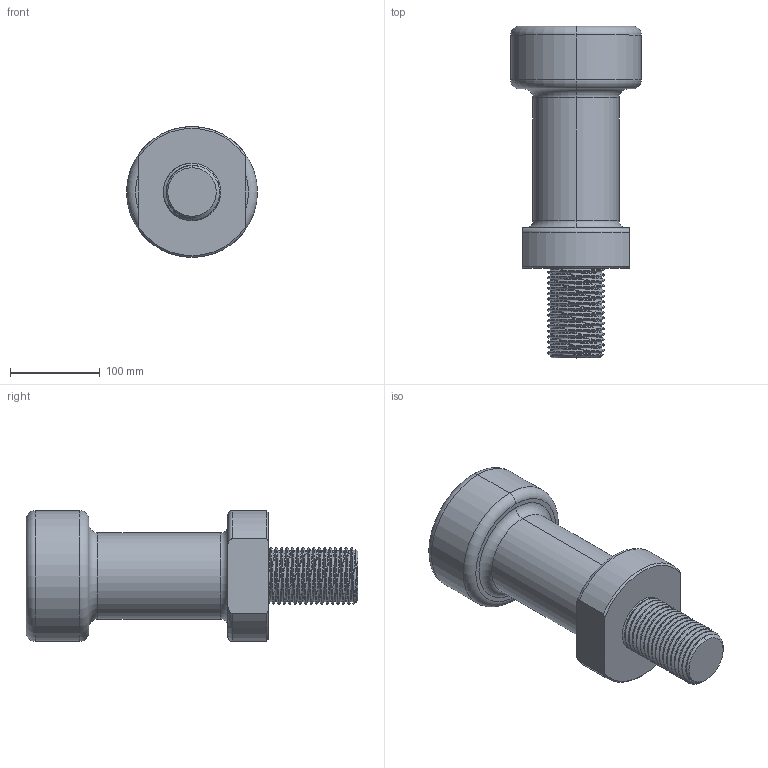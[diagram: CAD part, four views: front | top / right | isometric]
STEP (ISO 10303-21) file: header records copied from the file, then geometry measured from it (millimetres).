
FILE_DESCRIPTION (( 'STEP AP214' ), '1' );
FILE_NAME ('Plots_M64.STEP', '2022-03-14T16:28:05', ( '' ), ( '' ), 'SwSTEP 2.0', 'SolidWorks 2021', '' );
FILE_SCHEMA (( 'AUTOMOTIVE_DESIGN' ));
Length unit declared in the file: millimetre
Products named in the file (1): Plots_M64
Bounding box: 146 x 370 x 146 mm (x, y, z)
Volume: 3253582 mm3; surface area: 174575.8 mm2
Topology: 1 solids, 1 shells, 69 faces, 181 edges, 117 vertices
Faces by surface type: cylinder 40, torus 11, plane 8, cone 6, bspline 4
Entity records: 8717 total; most frequent: CARTESIAN_POINT 7193, ORIENTED_EDGE 362, DIRECTION 273, EDGE_CURVE 181, VERTEX_POINT 117, AXIS2_PLACEMENT_3D 110, EDGE_LOOP 72, ADVANCED_FACE 69
